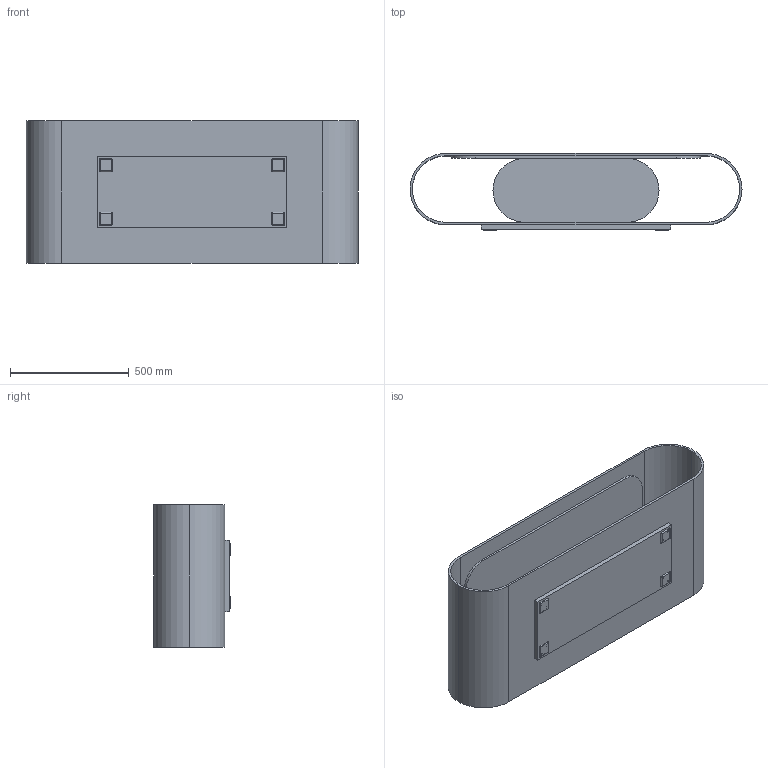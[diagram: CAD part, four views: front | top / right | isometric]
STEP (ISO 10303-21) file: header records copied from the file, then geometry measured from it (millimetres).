
FILE_DESCRIPTION (( 'STEP AP214' ), '1' );
FILE_NAME ('Tavolino_600x1400_ASSIEME.STEP', '2026-05-04T11:00:19', ( '' ), ( '' ), 'SwSTEP 2.0', 'SolidWorks 2025', '' );
FILE_SCHEMA (( 'AUTOMOTIVE_DESIGN' ));
Length unit declared in the file: millimetre
Products named in the file (6): Tavolino_STRUTTURA_600 x 1400; Tavolino_ZOCCOLO_600 x 1400; PIEDINO_IPEA; Tavolino_VETRO_60 x140; Tavolino_INTERNO; Tavolino_600x1400_ASSIEME
Assembly tree (8 placements, depth 2):
  Tavolino_600x1400_ASSIEME
    Tavolino_STRUTTURA_600 x 1400
    Tavolino_ZOCCOLO_600 x 1400
    PIEDINO_IPEA  x4
    Tavolino_INTERNO
    Tavolino_VETRO_60 x140
Bounding box: 1400 x 324 x 600 mm (x, y, z)
Volume: 29880002.8 mm3; surface area: 5671976.9 mm2
Topology: 8 solids, 8 shells, 331 faces, 929 edges, 566 vertices
Faces by surface type: cylinder 161, sphere 100, plane 54, torus 16
Entity records: 3975 total; most frequent: CARTESIAN_POINT 743, DIRECTION 710, ORIENTED_EDGE 594, EDGE_CURVE 297, AXIS2_PLACEMENT_3D 295, VERTEX_POINT 192, CIRCLE 157, EDGE_LOOP 141
